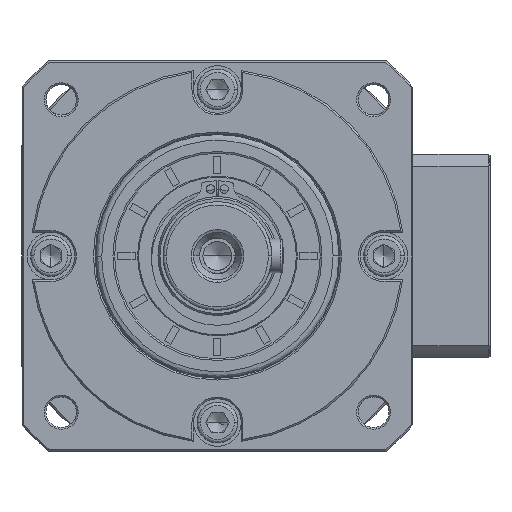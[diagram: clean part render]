
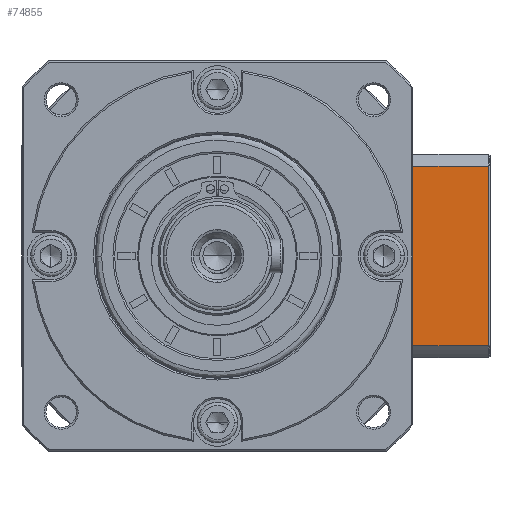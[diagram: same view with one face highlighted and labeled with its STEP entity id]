
A CAD part, left-side view. The second image highlights one B-rep face of the part: STEP entity #74855.
In plain terms, the highlighted planar face has unit normal (-1, 0, 0).
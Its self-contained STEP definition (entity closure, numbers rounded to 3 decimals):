
#2285 = LINE ( 'NONE', #180613, #40005 ) ;
#4052 = VECTOR ( 'NONE', #95371, 1000. ) ;
#4439 = VERTEX_POINT ( 'NONE', #97482 ) ;
#4905 = VERTEX_POINT ( 'NONE', #66819 ) ;
#6199 = EDGE_LOOP ( 'NONE', ( #102610, #145877, #143150, #176021, #172410, #16964, #77908, #135822 ) ) ;
#10562 = DIRECTION ( 'NONE',  ( 0., 1., 0. ) ) ;
#11816 = CARTESIAN_POINT ( 'NONE',  ( -85.266, -98.7, -44.332 ) ) ;
#16964 = ORIENTED_EDGE ( 'NONE', *, *, #48240, .T. ) ;
#17391 = CARTESIAN_POINT ( 'NONE',  ( -85.266, -95.25, -91.699 ) ) ;
#17396 = VERTEX_POINT ( 'NONE', #158165 ) ;
#18458 = PLANE ( 'NONE',  #42377 ) ;
#18877 = DIRECTION ( 'NONE',  ( 0., -1., 0. ) ) ;
#18935 = CARTESIAN_POINT ( 'NONE',  ( -85.266, -120.9, -97.247 ) ) ;
#19059 = DIRECTION ( 'NONE',  ( 1., 0., 0. ) ) ;
#19289 = DIRECTION ( 'NONE',  ( 0., 0., 1. ) ) ;
#20620 = VERTEX_POINT ( 'NONE', #31261 ) ;
#21802 = CARTESIAN_POINT ( 'NONE',  ( -85.266, -79.2, -100.789 ) ) ;
#29477 = VERTEX_POINT ( 'NONE', #18935 ) ;
#31261 = CARTESIAN_POINT ( 'NONE',  ( -85.266, -93.7, -52.761 ) ) ;
#31350 = LINE ( 'NONE', #21802, #69041 ) ;
#31686 = CARTESIAN_POINT ( 'NONE',  ( -85.266, -97.798, -95.884 ) ) ;
#34507 = EDGE_CURVE ( 'NONE', #96276, #17396, #107274, .T. ) ;
#39904 = FACE_OUTER_BOUND ( 'NONE', #6199, .T. ) ;
#40005 = VECTOR ( 'NONE', #10562, 1000. ) ;
#41072 = CARTESIAN_POINT ( 'NONE',  ( -85.266, -95.251, -49.878 ) ) ;
#42377 = AXIS2_PLACEMENT_3D ( 'NONE', #104059, #19059, #118346 ) ;
#48240 = EDGE_CURVE ( 'NONE', #4439, #94134, #31350, .T. ) ;
#55327 = CARTESIAN_POINT ( 'NONE',  ( -85.266, -93.7, -52.761 ) ) ;
#55848 = VECTOR ( 'NONE', #19289, 1000. ) ;
#59590 = CARTESIAN_POINT ( 'NONE',  ( -85.266, -94.45, -90.273 ) ) ;
#60454 = CARTESIAN_POINT ( 'NONE',  ( -85.266, -93.7, -44.332 ) ) ;
#62081 = CARTESIAN_POINT ( 'NONE',  ( -85.266, -120.9, -100.789 ) ) ;
#64086 = EDGE_CURVE ( 'NONE', #89369, #4905, #117286, .T. ) ;
#65049 = VECTOR ( 'NONE', #18877, 1000. ) ;
#66819 = CARTESIAN_POINT ( 'NONE',  ( -85.266, -98.7, -97.247 ) ) ;
#68363 = CARTESIAN_POINT ( 'NONE',  ( -85.266, -98.7, -44.332 ) ) ;
#69041 = VECTOR ( 'NONE', #121651, 1000. ) ;
#74855 = ADVANCED_FACE ( 'NONE', ( #39904 ), #18458, .F. ) ;
#77908 = ORIENTED_EDGE ( 'NONE', *, *, #126471, .F. ) ;
#80443 = CARTESIAN_POINT ( 'NONE',  ( -85.266, -93.7, -52.761 ) ) ;
#86323 = EDGE_CURVE ( 'NONE', #29477, #17396, #131445, .T. ) ;
#89369 = VERTEX_POINT ( 'NONE', #172444 ) ;
#89701 = CARTESIAN_POINT ( 'NONE',  ( -85.266, -79.2, -88.817 ) ) ;
#94134 = VERTEX_POINT ( 'NONE', #89701 ) ;
#95371 = DIRECTION ( 'NONE',  ( 0., -1., 0. ) ) ;
#96276 = VERTEX_POINT ( 'NONE', #11816 ) ;
#97482 = CARTESIAN_POINT ( 'NONE',  ( -85.266, -79.2, -52.761 ) ) ;
#97874 = DIRECTION ( 'NONE',  ( 0., 1., 0. ) ) ;
#102610 = ORIENTED_EDGE ( 'NONE', *, *, #167666, .F. ) ;
#104059 = CARTESIAN_POINT ( 'NONE',  ( -85.266, -121.4, -100.789 ) ) ;
#107274 = LINE ( 'NONE', #60454, #65049 ) ;
#111236 = CARTESIAN_POINT ( 'NONE',  ( -85.266, -97.8, -45.692 ) ) ;
#113564 = VECTOR ( 'NONE', #97874, 1000. ) ;
#116670 = CARTESIAN_POINT ( 'NONE',  ( -85.266, -96.925, -94.504 ) ) ;
#117286 = B_SPLINE_CURVE_WITH_KNOTS ( 'NONE', 3,
 ( #158858, #59590, #17391, #116670, #31686, #131026 ),
 .UNSPECIFIED., .F., .F.,
 ( 4, 2, 4 ),
 ( 0.1, 0.104, 0.109 ),
 .UNSPECIFIED. ) ;
#118036 = LINE ( 'NONE', #138886, #113564 ) ;
#118346 = DIRECTION ( 'NONE',  ( 0., 1., 0. ) ) ;
#121651 = DIRECTION ( 'NONE',  ( 0., 0., -1. ) ) ;
#126134 = CARTESIAN_POINT ( 'NONE',  ( -85.266, -96.927, -47.07 ) ) ;
#126471 = EDGE_CURVE ( 'NONE', #89369, #94134, #2285, .T. ) ;
#127112 = EDGE_CURVE ( 'NONE', #4439, #20620, #155094, .T. ) ;
#131026 = CARTESIAN_POINT ( 'NONE',  ( -85.266, -98.7, -97.247 ) ) ;
#131445 = LINE ( 'NONE', #62081, #55848 ) ;
#135822 = ORIENTED_EDGE ( 'NONE', *, *, #64086, .T. ) ;
#138886 = CARTESIAN_POINT ( 'NONE',  ( -85.266, -93.7, -97.247 ) ) ;
#140429 = CARTESIAN_POINT ( 'NONE',  ( -85.266, -94.448, -51.309 ) ) ;
#143150 = ORIENTED_EDGE ( 'NONE', *, *, #34507, .F. ) ;
#145877 = ORIENTED_EDGE ( 'NONE', *, *, #86323, .T. ) ;
#150398 = B_SPLINE_CURVE_WITH_KNOTS ( 'NONE', 3,
 ( #68363, #111236, #126134, #41072, #140429, #55327 ),
 .UNSPECIFIED., .F., .F.,
 ( 4, 2, 4 ),
 ( 0.052, 0.057, 0.062 ),
 .UNSPECIFIED. ) ;
#155094 = LINE ( 'NONE', #80443, #4052 ) ;
#158165 = CARTESIAN_POINT ( 'NONE',  ( -85.266, -120.9, -44.332 ) ) ;
#158858 = CARTESIAN_POINT ( 'NONE',  ( -85.266, -93.7, -88.817 ) ) ;
#167666 = EDGE_CURVE ( 'NONE', #29477, #4905, #118036, .T. ) ;
#172410 = ORIENTED_EDGE ( 'NONE', *, *, #127112, .F. ) ;
#172444 = CARTESIAN_POINT ( 'NONE',  ( -85.266, -93.7, -88.817 ) ) ;
#176021 = ORIENTED_EDGE ( 'NONE', *, *, #178097, .T. ) ;
#178097 = EDGE_CURVE ( 'NONE', #96276, #20620, #150398, .T. ) ;
#180613 = CARTESIAN_POINT ( 'NONE',  ( -85.266, -93.7, -88.817 ) ) ;
